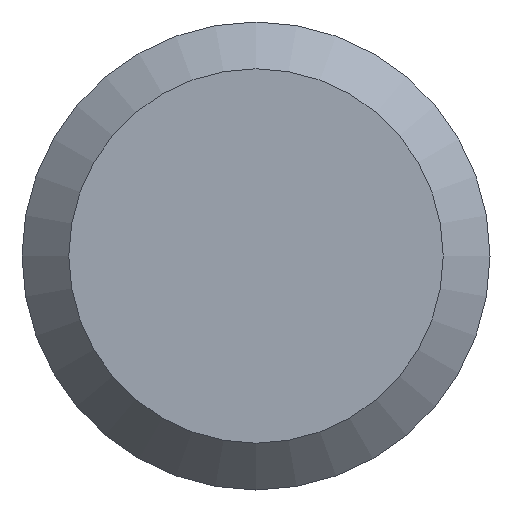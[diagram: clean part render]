
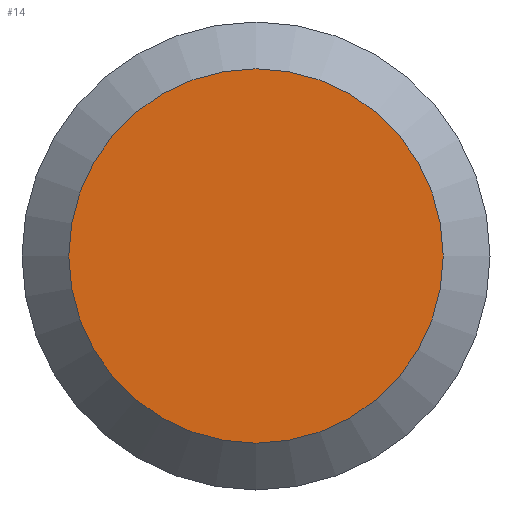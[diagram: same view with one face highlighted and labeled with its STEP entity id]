
A CAD part, left-side view. The second image highlights one B-rep face of the part: STEP entity #14.
In plain terms, the highlighted planar face has unit normal (-1, 0, 0).
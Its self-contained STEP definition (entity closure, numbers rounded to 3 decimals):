
#2 = CARTESIAN_POINT ( 'NONE',  ( 0., 0., 0. ) ) ;
#8 = ORIENTED_EDGE ( 'NONE', *, *, #140, .T. ) ;
#14 = ADVANCED_FACE ( 'NONE', ( #46 ), #37, .F. ) ;
#27 = EDGE_LOOP ( 'NONE', ( #8 ) ) ;
#37 = PLANE ( 'NONE',  #169 ) ;
#46 = FACE_OUTER_BOUND ( 'NONE', #27, .T. ) ;
#49 = CARTESIAN_POINT ( 'NONE',  ( 0., 0., -8. ) ) ;
#80 = DIRECTION ( 'NONE',  ( 0., 0., -1. ) ) ;
#93 = CIRCLE ( 'NONE', #138, 8. ) ;
#100 = DIRECTION ( 'NONE',  ( -1., 0., 0. ) ) ;
#138 = AXIS2_PLACEMENT_3D ( 'NONE', #2, #100, #161 ) ;
#140 = EDGE_CURVE ( 'NONE', #162, #162, #93, .T. ) ;
#161 = DIRECTION ( 'NONE',  ( 0., 0., -1. ) ) ;
#162 = VERTEX_POINT ( 'NONE', #49 ) ;
#169 = AXIS2_PLACEMENT_3D ( 'NONE', #188, #192, #80 ) ;
#188 = CARTESIAN_POINT ( 'NONE',  ( 0., 10., 0. ) ) ;
#192 = DIRECTION ( 'NONE',  ( 1., 0., 0. ) ) ;
